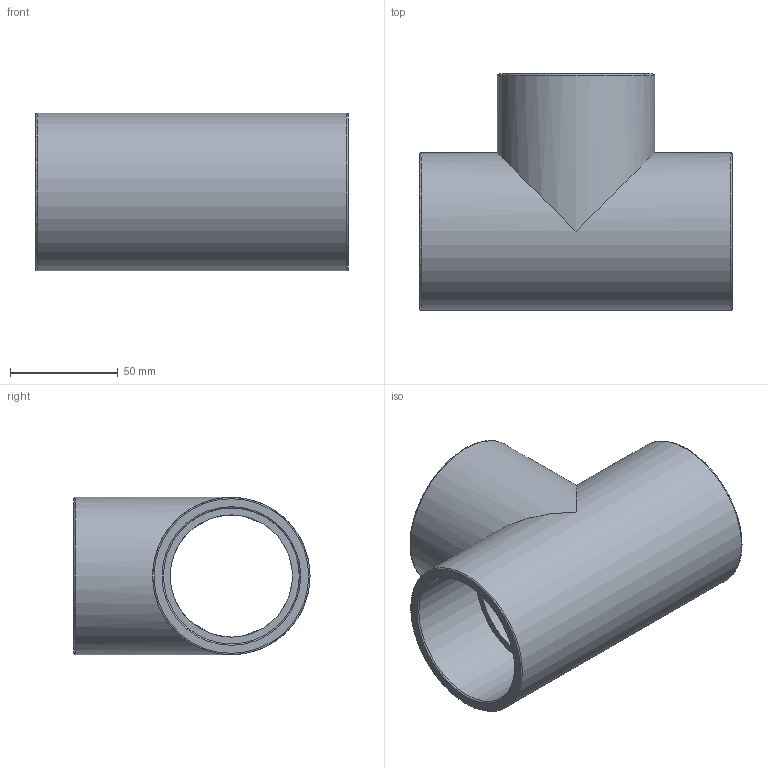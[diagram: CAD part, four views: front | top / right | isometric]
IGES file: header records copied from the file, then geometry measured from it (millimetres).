
Global section: file name: 050400063.ipt; native system: Autodesk Inventor 2015; preprocessor: unknown; author: KIM; date: 20171207.164436; units: millimetre
Bounding box: 145 x 109.5 x 73 mm (x, y, z)
Volume: 225431.5 mm3; surface area: 78630.5 mm2
Topology: 1 solids, 1 shells, 19 faces, 60 edges, 46 vertices
Faces by surface type: revolution 11, plane 6, cylinder 2
Full cylindrical faces by diameter (mm): 73 x2
